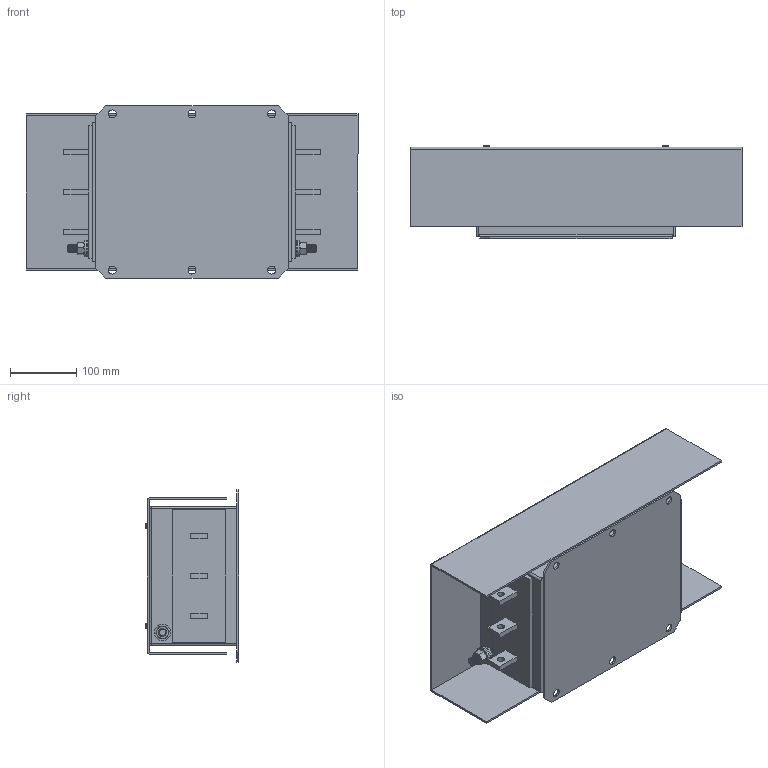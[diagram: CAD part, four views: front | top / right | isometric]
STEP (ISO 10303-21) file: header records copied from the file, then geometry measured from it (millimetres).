
FILE_DESCRIPTION (( 'STEP AP203' ), '1' );
FILE_NAME ('NF-300 with cover.STEP', '2013-12-18T11:37:59', ( 'Owner' ), ( 'EPA' ), 'SwSTEP 2.0', 'SolidWorks 2007', '' );
FILE_SCHEMA (( 'CONFIG_CONTROL_DESIGN' ));
Length unit declared in the file: millimetre
Products named in the file (8): NF-H; M12x30 Earth post; Pan Cross Head_AM_B18.6.7M - M4 x 0.7 x 8 Type I Cross Recessed PHMS --8N; NF-400 with cover; Formed Hex Screw_AM_B18.2.3.2M - Formed hex screw, M12 x 1.75 x 30 --30CS; Flat Washer Narrow_AM_B18.22M - Plain washer, 12 mm, narrow; Hex Nut Style 1_AM_B18.2.4.1M - Hex nut, Style 1,  M12 x 1.75 --D-N; High current protection cover
Assembly tree (12 placements, depth 3):
  NF-400 with cover
    M12x30 Earth post  x2
      Flat Washer Narrow_AM_B18.22M - Plain washer, 12 mm, narrow
      Formed Hex Screw_AM_B18.2.3.2M - Formed hex screw, M12 x 1.75 x 30 --30CS
      Hex Nut Style 1_AM_B18.2.4.1M - Hex nut, Style 1,  M12 x 1.75 --D-N
    Pan Cross Head_AM_B18.6.7M - M4 x 0.7 x 8 Type I Cross Recessed PHMS --8N  x4
    NF-H
    High current protection cover
Bounding box: 500 x 141.07 x 260 mm (x, y, z)
Volume: 9455218.9 mm3; surface area: 808835.4 mm2
Topology: 14 solids, 14 shells, 562 faces, 1362 edges, 844 vertices
Faces by surface type: cone 196, plane 176, cylinder 170, sphere 12, torus 8
Entity records: 10686 total; most frequent: CARTESIAN_POINT 1887, DIRECTION 1760, ORIENTED_EDGE 1564, EDGE_CURVE 782, AXIS2_PLACEMENT_3D 693, VERTEX_POINT 492, LINE 374, VECTOR 374
